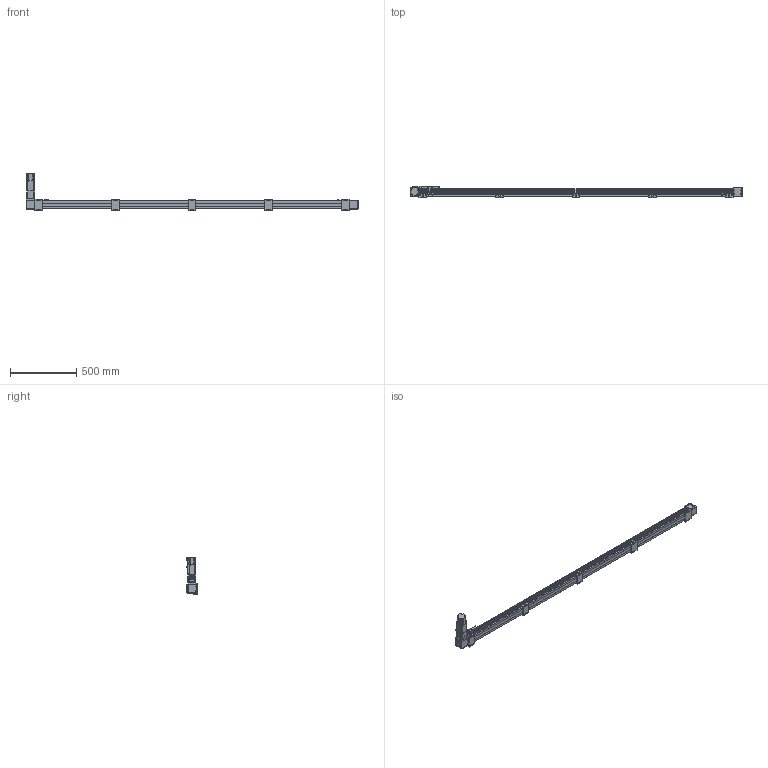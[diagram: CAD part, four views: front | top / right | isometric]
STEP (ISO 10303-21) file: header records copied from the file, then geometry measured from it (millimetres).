
FILE_DESCRIPTION(/* description */ ('STEP AP203'),/* implementation_level */ '2;1');
FILE_NAME(/* name */ 'SK60-P13-S2200-BL-T40-C1-N(0)',/* time_stamp */ '2023-04-06T03:37:46+02:00',/* author */ ('License CC BY-ND 4.0'),/* organization */ ('CADENAS'),/* preprocessor_version */ 'ST-DEVELOPER v19.3',/* originating_system */ 'PARTsolutions',/* authorisation */ ' ');
FILE_SCHEMA (('CONFIG_CONTROL_DESIGN'));
Length unit declared in the file: millimetre
Products named in the file (11): SK60-P13-S2200-BL-T40-C1-N(0); PSC140-sensor; SK60-S450_seat; SK60-S450-BL-C1_slider; SK60_body3; SK60_body6; SK60-BL_body2; T40-p1; SK60_body5; SK60_body4; SK60-S2200-BL-C1_body
Assembly tree (20 placements, depth 2):
  SK60-P13-S2200-BL-T40-C1-N(0)
    PSC140-sensor  x3
    SK60-S450_seat  x5
    SK60-S450-BL-C1_slider
    SK60_body3  x3
    SK60_body6  x2
    SK60-BL_body2  x2
    T40-p1
    SK60_body5
    SK60_body4
    SK60-S2200-BL-C1_body
Bounding box: 2500 x 90 x 278.2 mm (x, y, z)
Volume: 9107728.4 mm3; surface area: 1127513.2 mm2
Topology: 20 solids, 24 shells, 966 faces, 2403 edges, 1586 vertices
Faces by surface type: plane 616, cylinder 314, cone 34, torus 2
Full cylindrical faces by diameter (mm): 2.8 x3, 3.3 x4, 4.2 x8, 4.5 x26, 4.6 x3, 4.917 x28, 5 x2, 5.478 x4, 5.5 x31, 6.5 x10, 8 x4, 8.5 x4, 9.988 x4, 10 x20, 13.556 x1, 14 x1, 14.586 x1, 19.692 x1, 38.432 x2, 43 x1, 44 x3, 47 x2, 50 x2
Entity records: 19395 total; most frequent: DIRECTION 3298, CARTESIAN_POINT 3292, ORIENTED_EDGE 3050, EDGE_CURVE 1525, AXIS2_PLACEMENT_3D 1103, LINE 1092, VECTOR 1092, VERTEX_POINT 1077
